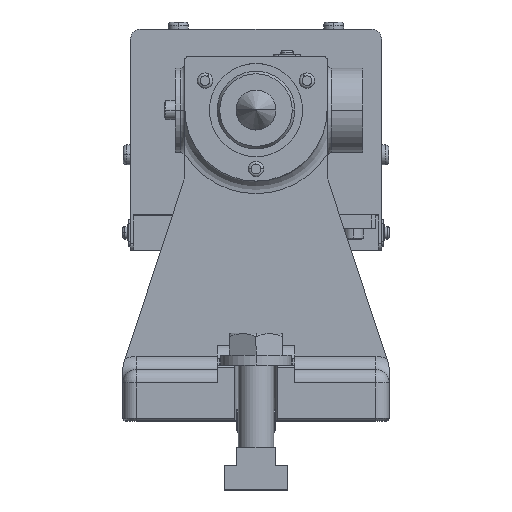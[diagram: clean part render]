
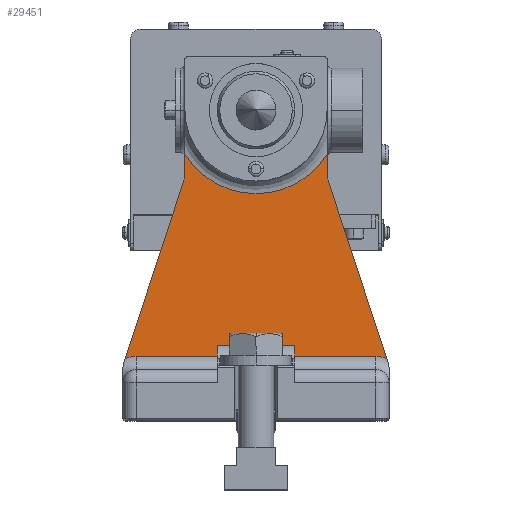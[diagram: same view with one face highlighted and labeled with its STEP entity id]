
A CAD part, top view. The second image highlights one B-rep face of the part: STEP entity #29451.
In plain terms, the highlighted planar face has unit normal (0, 0, 1) as drawn and (-1, 0, 0) by its records, which use the part's own axes.
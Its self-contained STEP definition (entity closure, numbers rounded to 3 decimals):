
#158 = LINE ( 'NONE', #47670, #42072 ) ;
#367 = AXIS2_PLACEMENT_3D ( 'NONE', #58757, #26022, #64260 ) ;
#605 = DIRECTION ( 'NONE',  ( 1., 0., 0. ) ) ;
#769 = VECTOR ( 'NONE', #21147, 1000. ) ;
#4128 = VERTEX_POINT ( 'NONE', #36920 ) ;
#4487 = EDGE_CURVE ( 'NONE', #61509, #44191, #67610, .T. ) ;
#5112 = EDGE_CURVE ( 'NONE', #54362, #36473, #14494, .T. ) ;
#5251 = EDGE_CURVE ( 'NONE', #54744, #44191, #68292, .T. ) ;
#5475 = EDGE_CURVE ( 'NONE', #6694, #65173, #70808, .T. ) ;
#5748 = CARTESIAN_POINT ( 'NONE',  ( 35., 34., -17.5 ) ) ;
#6694 = VERTEX_POINT ( 'NONE', #28669 ) ;
#7480 = ORIENTED_EDGE ( 'NONE', *, *, #48784, .F. ) ;
#7672 = DIRECTION ( 'NONE',  ( 0., 1., 0. ) ) ;
#7964 = ORIENTED_EDGE ( 'NONE', *, *, #20127, .T. ) ;
#8019 = EDGE_CURVE ( 'NONE', #10295, #6694, #17549, .T. ) ;
#9302 = DIRECTION ( 'NONE',  ( 1., 0., 0. ) ) ;
#9359 = CARTESIAN_POINT ( 'NONE',  ( 35., 29., 54. ) ) ;
#10295 = VERTEX_POINT ( 'NONE', #12090 ) ;
#12090 = CARTESIAN_POINT ( 'NONE',  ( 35., 34., 17.5 ) ) ;
#12114 = CARTESIAN_POINT ( 'NONE',  ( 35., 164., -60. ) ) ;
#12719 = VECTOR ( 'NONE', #65414, 1000. ) ;
#13624 = LINE ( 'NONE', #53845, #769 ) ;
#14494 = LINE ( 'NONE', #29123, #69191 ) ;
#14648 = ORIENTED_EDGE ( 'NONE', *, *, #49239, .T. ) ;
#16495 = CARTESIAN_POINT ( 'NONE',  ( 35., 164., 17.5 ) ) ;
#17256 = FACE_OUTER_BOUND ( 'NONE', #44450, .T. ) ;
#17505 = VERTEX_POINT ( 'NONE', #23416 ) ;
#17549 = LINE ( 'NONE', #16495, #48283 ) ;
#18033 = DIRECTION ( 'NONE',  ( 0., 0.95, 0.312 ) ) ;
#20127 = EDGE_CURVE ( 'NONE', #49180, #43071, #36116, .T. ) ;
#20477 = CARTESIAN_POINT ( 'NONE',  ( 35., 29., -54. ) ) ;
#20720 = CARTESIAN_POINT ( 'NONE',  ( 35., 17., 54. ) ) ;
#21147 = DIRECTION ( 'NONE',  ( 0., 1., 0. ) ) ;
#21386 = ORIENTED_EDGE ( 'NONE', *, *, #32500, .T. ) ;
#23116 = PLANE ( 'NONE',  #48067 ) ;
#23416 = CARTESIAN_POINT ( 'NONE',  ( 35., 108.482, 32.498 ) ) ;
#24950 = VERTEX_POINT ( 'NONE', #47730 ) ;
#26022 = DIRECTION ( 'NONE',  ( 1., 0., 0. ) ) ;
#26219 = DIRECTION ( 'NONE',  ( 0., 0., -1. ) ) ;
#27657 = DIRECTION ( 'NONE',  ( 1., 0., 0. ) ) ;
#28553 = DIRECTION ( 'NONE',  ( 0., 0., -1. ) ) ;
#28669 = CARTESIAN_POINT ( 'NONE',  ( 35., 29., 17.5 ) ) ;
#28683 = VERTEX_POINT ( 'NONE', #20477 ) ;
#29123 = CARTESIAN_POINT ( 'NONE',  ( 35., 164., -17.5 ) ) ;
#29185 = EDGE_CURVE ( 'NONE', #65173, #24950, #39550, .T. ) ;
#29451 = ADVANCED_FACE ( 'NONE', ( #17256 ), #23116, .F. ) ;
#31281 = LINE ( 'NONE', #70507, #60354 ) ;
#32500 = EDGE_CURVE ( 'NONE', #36473, #10295, #57674, .T. ) ;
#33369 = CARTESIAN_POINT ( 'NONE',  ( 35., 111.598, 42. ) ) ;
#34744 = ORIENTED_EDGE ( 'NONE', *, *, #5251, .T. ) ;
#34784 = CARTESIAN_POINT ( 'NONE',  ( 35., 27.954, -58.9 ) ) ;
#36116 = CIRCLE ( 'NONE', #47118, 37.657 ) ;
#36349 = CARTESIAN_POINT ( 'NONE',  ( 35., 120.15, 32. ) ) ;
#36473 = VERTEX_POINT ( 'NONE', #41797 ) ;
#36920 = CARTESIAN_POINT ( 'NONE',  ( 35., 111.598, 32. ) ) ;
#37360 = ORIENTED_EDGE ( 'NONE', *, *, #44120, .F. ) ;
#37827 = DIRECTION ( 'NONE',  ( 0., -1., 0. ) ) ;
#38870 = DIRECTION ( 'NONE',  ( 0., 0., -1. ) ) ;
#39455 = AXIS2_PLACEMENT_3D ( 'NONE', #33369, #605, #38870 ) ;
#39550 = CIRCLE ( 'NONE', #42121, 12. ) ;
#41797 = CARTESIAN_POINT ( 'NONE',  ( 35., 34., -17.5 ) ) ;
#42018 = CARTESIAN_POINT ( 'NONE',  ( 35., 111.598, -42. ) ) ;
#42072 = VECTOR ( 'NONE', #53142, 1000. ) ;
#42121 = AXIS2_PLACEMENT_3D ( 'NONE', #20720, #58953, #26219 ) ;
#43071 = VERTEX_POINT ( 'NONE', #59141 ) ;
#43945 = DIRECTION ( 'NONE',  ( 0., 0., 1. ) ) ;
#44058 = CIRCLE ( 'NONE', #367, 12. ) ;
#44120 = EDGE_CURVE ( 'NONE', #17505, #24950, #65848, .T. ) ;
#44191 = VERTEX_POINT ( 'NONE', #63582 ) ;
#44450 = EDGE_LOOP ( 'NONE', ( #7480, #7964, #66884, #34744, #64715, #14648, #63591, #49123, #21386, #68901, #68203, #67742, #37360, #56741 ) ) ;
#44914 = VECTOR ( 'NONE', #43945, 1000. ) ;
#47118 = AXIS2_PLACEMENT_3D ( 'NONE', #60434, #27657, #65924 ) ;
#47506 = DIRECTION ( 'NONE',  ( 0., 0., -1. ) ) ;
#47670 = CARTESIAN_POINT ( 'NONE',  ( 35., 29., -60. ) ) ;
#47730 = CARTESIAN_POINT ( 'NONE',  ( 35., 27.954, 58.9 ) ) ;
#48067 = AXIS2_PLACEMENT_3D ( 'NONE', #12114, #61320, #28553 ) ;
#48283 = VECTOR ( 'NONE', #54686, 1000. ) ;
#48784 = EDGE_CURVE ( 'NONE', #49180, #4128, #31281, .T. ) ;
#49123 = ORIENTED_EDGE ( 'NONE', *, *, #5112, .T. ) ;
#49170 = CARTESIAN_POINT ( 'NONE',  ( 35., 29., -60. ) ) ;
#49180 = VERTEX_POINT ( 'NONE', #36349 ) ;
#49239 = EDGE_CURVE ( 'NONE', #61509, #28683, #44058, .T. ) ;
#50126 = CARTESIAN_POINT ( 'NONE',  ( 35., 29., -17.5 ) ) ;
#51335 = VECTOR ( 'NONE', #62874, 1000. ) ;
#53044 = VECTOR ( 'NONE', #18033, 1000. ) ;
#53142 = DIRECTION ( 'NONE',  ( 0., 0., 1. ) ) ;
#53700 = CIRCLE ( 'NONE', #39455, 10. ) ;
#53845 = CARTESIAN_POINT ( 'NONE',  ( 35., 164., -32. ) ) ;
#54362 = VERTEX_POINT ( 'NONE', #50126 ) ;
#54686 = DIRECTION ( 'NONE',  ( 0., -1., 0. ) ) ;
#54744 = VERTEX_POINT ( 'NONE', #59123 ) ;
#55783 = EDGE_CURVE ( 'NONE', #28683, #54362, #158, .T. ) ;
#56179 = CARTESIAN_POINT ( 'NONE',  ( 35., 150.469, -18.731 ) ) ;
#56741 = ORIENTED_EDGE ( 'NONE', *, *, #59341, .T. ) ;
#57314 = CARTESIAN_POINT ( 'NONE',  ( 35., 185.995, 7.084 ) ) ;
#57674 = LINE ( 'NONE', #5748, #44914 ) ;
#58757 = CARTESIAN_POINT ( 'NONE',  ( 35., 17., -54. ) ) ;
#58953 = DIRECTION ( 'NONE',  ( 1., 0., 0. ) ) ;
#59123 = CARTESIAN_POINT ( 'NONE',  ( 35., 111.598, -32. ) ) ;
#59141 = CARTESIAN_POINT ( 'NONE',  ( 35., 120.15, -32. ) ) ;
#59341 = EDGE_CURVE ( 'NONE', #17505, #4128, #53700, .T. ) ;
#60354 = VECTOR ( 'NONE', #37827, 1000. ) ;
#60434 = CARTESIAN_POINT ( 'NONE',  ( 35., 140., 0. ) ) ;
#61320 = DIRECTION ( 'NONE',  ( 1., 0., 0. ) ) ;
#61509 = VERTEX_POINT ( 'NONE', #34784 ) ;
#62324 = AXIS2_PLACEMENT_3D ( 'NONE', #42018, #9302, #47506 ) ;
#62874 = DIRECTION ( 'NONE',  ( 0., -0.95, 0.312 ) ) ;
#63582 = CARTESIAN_POINT ( 'NONE',  ( 35., 108.482, -32.498 ) ) ;
#63591 = ORIENTED_EDGE ( 'NONE', *, *, #55783, .T. ) ;
#64260 = DIRECTION ( 'NONE',  ( 0., 0., -1. ) ) ;
#64715 = ORIENTED_EDGE ( 'NONE', *, *, #4487, .F. ) ;
#65173 = VERTEX_POINT ( 'NONE', #9359 ) ;
#65414 = DIRECTION ( 'NONE',  ( 0., 0., 1. ) ) ;
#65848 = LINE ( 'NONE', #57314, #51335 ) ;
#65924 = DIRECTION ( 'NONE',  ( 0., 0., -1. ) ) ;
#66884 = ORIENTED_EDGE ( 'NONE', *, *, #68351, .F. ) ;
#67610 = LINE ( 'NONE', #56179, #53044 ) ;
#67742 = ORIENTED_EDGE ( 'NONE', *, *, #29185, .T. ) ;
#68203 = ORIENTED_EDGE ( 'NONE', *, *, #5475, .T. ) ;
#68292 = CIRCLE ( 'NONE', #62324, 10. ) ;
#68351 = EDGE_CURVE ( 'NONE', #54744, #43071, #13624, .T. ) ;
#68901 = ORIENTED_EDGE ( 'NONE', *, *, #8019, .T. ) ;
#69191 = VECTOR ( 'NONE', #7672, 1000. ) ;
#70507 = CARTESIAN_POINT ( 'NONE',  ( 35., 164., 32. ) ) ;
#70808 = LINE ( 'NONE', #49170, #12719 ) ;
